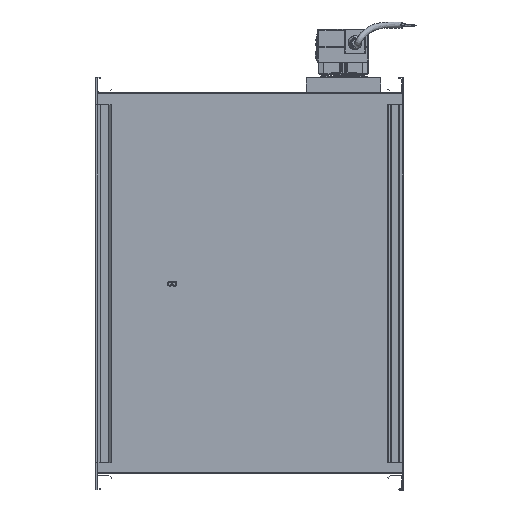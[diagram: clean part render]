
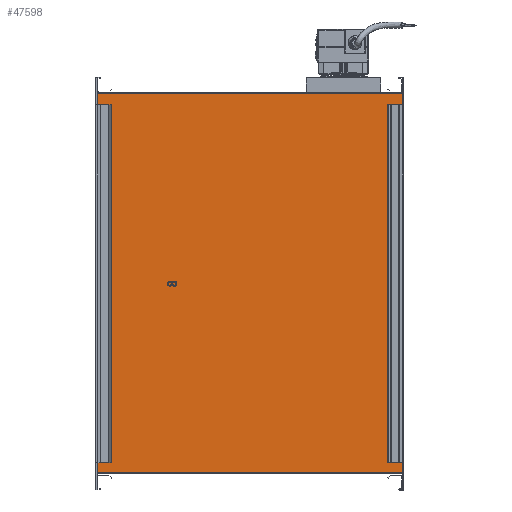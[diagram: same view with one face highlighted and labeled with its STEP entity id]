
A CAD part, front view. The second image highlights one B-rep face of the part: STEP entity #47598.
In plain terms, the highlighted planar face has unit normal (0, -1, 0).
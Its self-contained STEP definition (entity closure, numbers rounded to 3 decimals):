
#1167 = VECTOR ( 'NONE', #67502, 1000. ) ;
#4961 = DIRECTION ( 'NONE',  ( 0., 0., -1. ) ) ;
#6124 = VERTEX_POINT ( 'NONE', #34572 ) ;
#8714 = VERTEX_POINT ( 'NONE', #20200 ) ;
#9374 = PLANE ( 'NONE',  #44671 ) ;
#9687 = VERTEX_POINT ( 'NONE', #72305 ) ;
#13399 = EDGE_CURVE ( 'NONE', #13984, #9687, #72933, .T. ) ;
#13984 = VERTEX_POINT ( 'NONE', #92490 ) ;
#17256 = VECTOR ( 'NONE', #38542, 1000. ) ;
#17441 = LINE ( 'NONE', #25024, #1167 ) ;
#18671 = ORIENTED_EDGE ( 'NONE', *, *, #84492, .T. ) ;
#20200 = CARTESIAN_POINT ( 'NONE',  ( 155.577, -135.848, 1348. ) ) ;
#24968 = CARTESIAN_POINT ( 'NONE',  ( -244.423, -135.848, 852. ) ) ;
#25024 = CARTESIAN_POINT ( 'NONE',  ( -244.423, -135.848, 1348. ) ) ;
#25031 = VECTOR ( 'NONE', #4961, 1000. ) ;
#34572 = CARTESIAN_POINT ( 'NONE',  ( 155.577, -135.848, 852. ) ) ;
#34762 = CARTESIAN_POINT ( 'NONE',  ( 155.577, -135.848, 852. ) ) ;
#35111 = ORIENTED_EDGE ( 'NONE', *, *, #38218, .F. ) ;
#37060 = CARTESIAN_POINT ( 'NONE',  ( -244.423, -135.848, 852. ) ) ;
#38218 = EDGE_CURVE ( 'NONE', #13984, #8714, #17441, .T. ) ;
#38542 = DIRECTION ( 'NONE',  ( 1., 0., 0. ) ) ;
#42173 = ORIENTED_EDGE ( 'NONE', *, *, #86660, .F. ) ;
#42395 = ORIENTED_EDGE ( 'NONE', *, *, #13399, .T. ) ;
#44671 = AXIS2_PLACEMENT_3D ( 'NONE', #24968, #45761, #74546 ) ;
#45761 = DIRECTION ( 'NONE',  ( 0., -1., 0. ) ) ;
#47598 = ADVANCED_FACE ( 'NONE', ( #73633 ), #9374, .T. ) ;
#53648 = LINE ( 'NONE', #76276, #17256 ) ;
#67502 = DIRECTION ( 'NONE',  ( 1., 0., 0. ) ) ;
#72235 = VECTOR ( 'NONE', #87618, 1000. ) ;
#72305 = CARTESIAN_POINT ( 'NONE',  ( -244.423, -135.848, 852. ) ) ;
#72933 = LINE ( 'NONE', #37060, #72235 ) ;
#73004 = EDGE_LOOP ( 'NONE', ( #42173, #35111, #42395, #18671 ) ) ;
#73633 = FACE_OUTER_BOUND ( 'NONE', #73004, .T. ) ;
#74546 = DIRECTION ( 'NONE',  ( 0., 0., -1. ) ) ;
#76276 = CARTESIAN_POINT ( 'NONE',  ( -244.423, -135.848, 852. ) ) ;
#78190 = LINE ( 'NONE', #34762, #25031 ) ;
#84492 = EDGE_CURVE ( 'NONE', #9687, #6124, #53648, .T. ) ;
#86660 = EDGE_CURVE ( 'NONE', #8714, #6124, #78190, .T. ) ;
#87618 = DIRECTION ( 'NONE',  ( 0., 0., -1. ) ) ;
#92490 = CARTESIAN_POINT ( 'NONE',  ( -244.423, -135.848, 1348. ) ) ;
